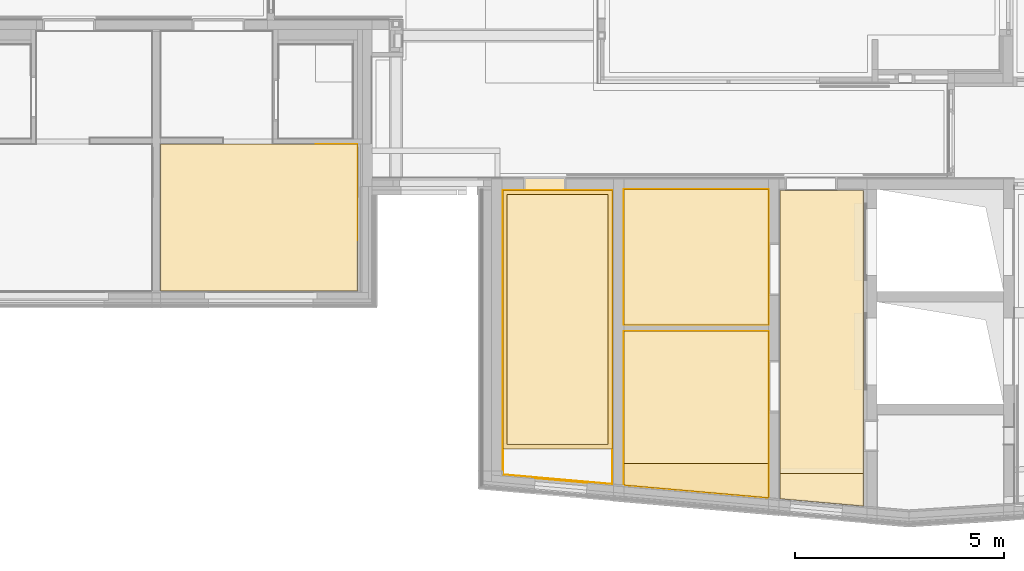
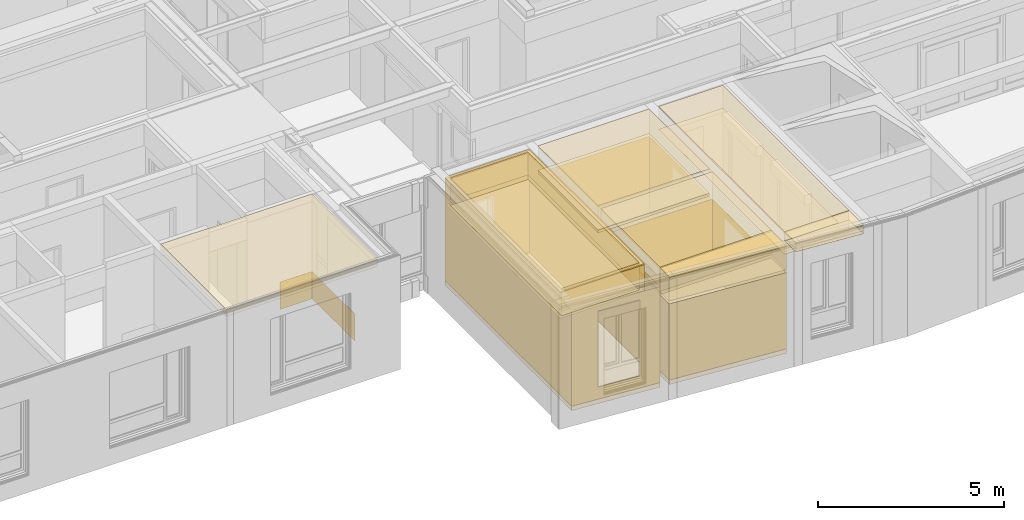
# One storey, part 164 of 222: 37 coverings.
"""IFC4 building model written with IfcOpenShell, lengths in metres."""

from ifc_helpers import new_model, entity, si_unit, converted_unit, derived_unit, frame, frame_2d, origin, origin_with_axes, place, context, subcontext, project, spatial, polyline, rectangle, outline, extrude, material, layer, layer_set, layer_usage, element, save


model = new_model("IFC4")

# Units and contexts
model_context = context("Model", 3, precision=1e-05, world=origin())
body_context = subcontext(model_context, "Body", "Model", "MODEL_VIEW")
ifc_project = project(units=[si_unit("LENGTHUNIT", "METRE"), si_unit("AREAUNIT", "SQUARE_METRE"), si_unit("VOLUMEUNIT", "CUBIC_METRE"), si_unit("MASSUNIT", "GRAM", prefix="KILO"), converted_unit("PLANEANGLEUNIT", "DEGREE", entity("IfcPlaneAngleMeasure", 0.0174532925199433), si_unit("PLANEANGLEUNIT", "RADIAN"), dimensions=[0, 0, 0, 0, 0, 0, 0]), derived_unit("THERMALTRANSMITTANCEUNIT", [(si_unit("POWERUNIT", "WATT"), 1), (si_unit("THERMODYNAMICTEMPERATUREUNIT", "KELVIN"), -1), (si_unit("LENGTHUNIT", "METRE"), -2)]), derived_unit("VOLUMETRICFLOWRATEUNIT", [(si_unit("LENGTHUNIT", "METRE"), 3), (converted_unit("TIMEUNIT", "hour", entity("IfcTimeMeasure", 3600.0), si_unit("TIMEUNIT", "SECOND"), dimensions=[0, 0, 1, 0, 0, 0, 0]), -1), (si_unit("LENGTHUNIT", "METRE"), -1)])], contexts=[model_context])

# Site, building, storey, space
site_placement = place(None, origin())
site = spatial("IfcSite", under=ifc_project, at=site_placement, Name="Psychiatrie Neubau Wunstorf", CompositionType="ELEMENT")
building_placement = place(site_placement, origin())
building = spatial("IfcBuilding", under=site, at=building_placement, Name="Neubau H2 Stationsgebäude", CompositionType="ELEMENT")
storey_placement = place(building_placement, frame((0.0, 0.0, 3.6)))
storey = spatial("IfcBuildingStorey", under=building, at=storey_placement, Name="H2 Ebene +1", CompositionType="ELEMENT", Elevation=3.6)
space_1_placement = place(storey_placement, frame((44.9410305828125, -7.31716821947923, 0.0)))
space_1 = spatial("IfcSpace", under=storey, at=space_1_placement, Name="WUN-H2-E01-F02", CompositionType="ELEMENT")

# Coverings
ifc_material_1 = material()
ifc_layer_1 = layer(ifc_material_1, 0.036)
ifc_layer_set_1 = layer_set([ifc_layer_1])
ifc_layer_usage_1 = layer_usage(ifc_layer_set_1, "AXIS3", "POSITIVE", 0.0)
covering_1_placement = place(space_1_placement, frame((0.0, 0.777576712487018, 3.55)))
element("IfcCovering", 1, at=covering_1_placement, inside=space_1, material=ifc_layer_usage_1, Name="Gipsfaserplatten 2-lagig (BSK)", PredefinedType="CEILING", context=body_context, shape_type="SweptSolid", body=[
    extrude(rectangle(XDim=6.78959150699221, YDim=1.99897429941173, at=frame_2d((-0.999487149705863, 3.3947957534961), x_axis=(0.0, 1.0))), frame((1.99897429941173, 6.78959150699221, 0.0), z_axis=(0.0, 0.0, -1.0), x_axis=(1.0, 0.0, 0.0)), (0.0, 0.0, 1.0), 0.036),
])
ifc_material_2 = material(Name="Installationshöhe")
ifc_layer_2 = layer(ifc_material_2, 0.614)
ifc_layer_set_2 = layer_set([ifc_layer_2])
ifc_layer_usage_2 = layer_usage(ifc_layer_set_2, "AXIS3", "POSITIVE", 0.0)
covering_2_placement = place(space_1_placement, frame((0.0, 0.777576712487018, 3.514)))
element("IfcCovering", 2, at=covering_2_placement, inside=space_1, material=ifc_layer_usage_2, Name="Gipsfaserplatten 2-lagig (BSK)", PredefinedType="CEILING", context=body_context, shape_type="SweptSolid", body=[
    extrude(rectangle(XDim=6.78959150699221, YDim=1.99897429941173, at=frame_2d((-0.999487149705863, 3.3947957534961), x_axis=(0.0, 1.0))), frame((1.99897429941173, 6.78959150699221, 0.0), z_axis=(0.0, 0.0, -1.0), x_axis=(1.0, 0.0, 0.0)), (0.0, 0.0, 1.0), 0.614),
])
ifc_material_3 = material(Name="A1")
ifc_layer_3 = layer(ifc_material_3, 0.1)
ifc_layer_set_3 = layer_set([ifc_layer_3])
ifc_layer_usage_3 = layer_usage(ifc_layer_set_3, "AXIS3", "POSITIVE", 0.0)
covering_3_placement = place(space_1_placement, frame((0.0, 0.777576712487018, 2.9)))
element("IfcCovering", 3, at=covering_3_placement, inside=space_1, material=ifc_layer_usage_3, Name="Gipskarton, imprägniert", PredefinedType="CEILING", context=body_context, shape_type="SweptSolid", body=[
    extrude(rectangle(XDim=6.78959150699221, YDim=1.99897429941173, at=frame_2d((-0.999487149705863, 3.3947957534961), x_axis=(0.0, 1.0))), frame((1.99897429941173, 6.78959150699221, 0.0), z_axis=(0.0, 0.0, -1.0), x_axis=(1.0, 0.0, 0.0)), (0.0, 0.0, 1.0), 0.1),
])
ifc_material_4 = material(Name="D1")
ifc_layer_4 = layer(ifc_material_4, 0.001)
ifc_layer_set_4 = layer_set([ifc_layer_4])
ifc_layer_usage_4 = layer_usage(ifc_layer_set_4, "AXIS3", "POSITIVE", 0.0)
covering_4_placement = place(space_1_placement, frame((0.0, 0.777576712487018, 2.8)))
element("IfcCovering", 4, at=covering_4_placement, inside=space_1, material=ifc_layer_usage_4, Name="Gipsfaserplatten 2-lagig (BSK)", PredefinedType="CEILING", context=body_context, shape_type="SweptSolid", body=[
    extrude(rectangle(XDim=6.78959150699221, YDim=1.99897429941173, at=frame_2d((-0.999487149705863, 3.3947957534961), x_axis=(0.0, 1.0))), frame((1.99897429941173, 6.78959150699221, 0.0), z_axis=(0.0, 0.0, -1.0), x_axis=(1.0, 0.0, 0.0)), (0.0, 0.0, 1.0), 0.001),
])
ifc_material_5 = material()
ifc_layer_5 = layer(ifc_material_5, 0.036)
ifc_layer_set_5 = layer_set([ifc_layer_5])
ifc_layer_usage_5 = layer_usage(ifc_layer_set_5, "AXIS3", "POSITIVE", 0.0)
covering_5_placement = place(space_1_placement, frame((0.0, 0.0, 3.55)))
element("IfcCovering", 5, at=covering_5_placement, inside=space_1, material=ifc_layer_usage_5, Name="Gipsfaserplatten 2-lagig (BSK)", PredefinedType="CEILING", context=body_context, shape_type="SweptSolid", body=[
    extrude(outline(polyline([(0.0, 0.602193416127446), (0.0, 0.0), (1.99897429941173, 0.0), (1.99897429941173, 0.777576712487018), (0.0, 0.602193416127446)])), frame((0.0, 0.777576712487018, 0.0), z_axis=(0.0, 0.0, -1.0), x_axis=(1.0, 0.0, 0.0)), (0.0, 0.0, 1.0), 0.036),
])
ifc_material_6 = material(Name="Installationshöhe")
ifc_layer_6 = layer(ifc_material_6, 0.164)
ifc_layer_set_6 = layer_set([ifc_layer_6])
ifc_layer_usage_6 = layer_usage(ifc_layer_set_6, "AXIS3", "POSITIVE", 0.0)
covering_6_placement = place(space_1_placement, frame((0.0, 0.0, 3.514)))
element("IfcCovering", 6, at=covering_6_placement, inside=space_1, material=ifc_layer_usage_6, Name="Gipsfaserplatten 2-lagig (BSK)", PredefinedType="CEILING", context=body_context, shape_type="SweptSolid", body=[
    extrude(outline(polyline([(0.0, 0.602193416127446), (0.0, 0.0), (1.99897429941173, 0.0), (1.99897429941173, 0.777576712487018), (0.0, 0.602193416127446)])), frame((0.0, 0.777576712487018, 0.0), z_axis=(0.0, 0.0, -1.0), x_axis=(1.0, 0.0, 0.0)), (0.0, 0.0, 1.0), 0.164),
])
ifc_material_7 = material(Name="A1")
ifc_layer_7 = layer(ifc_material_7, 0.1)
ifc_layer_set_7 = layer_set([ifc_layer_7])
ifc_layer_usage_7 = layer_usage(ifc_layer_set_7, "AXIS3", "POSITIVE", 0.0)
covering_7_placement = place(space_1_placement, frame((0.0, 0.0, 3.35)))
element("IfcCovering", 7, at=covering_7_placement, inside=space_1, material=ifc_layer_usage_7, Name="Gipsfaserplatten 2-lagig (BSK)", PredefinedType="CEILING", context=body_context, shape_type="SweptSolid", body=[
    extrude(outline(polyline([(0.0, 0.602193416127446), (0.0, 0.0), (1.99897429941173, 0.0), (1.99897429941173, 0.777576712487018), (0.0, 0.602193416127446)])), frame((0.0, 0.777576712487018, 0.0), z_axis=(0.0, 0.0, -1.0), x_axis=(1.0, 0.0, 0.0)), (0.0, 0.0, 1.0), 0.1),
])
ifc_material_8 = material(Name="D1")
ifc_layer_8 = layer(ifc_material_8, 0.001)
ifc_layer_set_8 = layer_set([ifc_layer_8])
ifc_layer_usage_8 = layer_usage(ifc_layer_set_8, "AXIS3", "POSITIVE", 0.0)
covering_8_placement = place(space_1_placement, frame((0.0, 0.0, 3.25)))
element("IfcCovering", 8, at=covering_8_placement, inside=space_1, material=ifc_layer_usage_8, Name="Gipsfaserplatten 2-lagig (BSK)", PredefinedType="CEILING", context=body_context, shape_type="SweptSolid", body=[
    extrude(outline(polyline([(0.0, 0.602193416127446), (0.0, 0.0), (1.99897429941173, 0.0), (1.99897429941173, 0.777576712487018), (0.0, 0.602193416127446)])), frame((0.0, 0.777576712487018, 0.0), z_axis=(0.0, 0.0, -1.0), x_axis=(1.0, 0.0, 0.0)), (0.0, 0.0, 1.0), 0.001),
])

# Space
space_2_placement = place(storey_placement, frame((30.1, -2.16399999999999, 0.0)))
space_2 = spatial("IfcSpace", under=storey, at=space_2_placement, Name="WUN-H2-E01-019", CompositionType="ELEMENT")

# Coverings
ifc_material_9 = material(Name="84")
ifc_layer_9 = layer(ifc_material_9, 0.001)
ifc_layer_set_9 = layer_set([ifc_layer_9])
ifc_layer_usage_9 = layer_usage(ifc_layer_set_9, "AXIS3", "POSITIVE", 0.0)
covering_9_placement = place(space_2_placement, frame((3.71400000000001, 1.22274963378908, 0.1)))
element("IfcCovering", 9, at=covering_9_placement, inside=space_2, material=ifc_layer_usage_9, Name="Acrovyn", PredefinedType="CLADDING", context=body_context, shape_type="SweptSolid", body=[
    extrude(rectangle(XDim=0.9, YDim=1.0, at=frame_2d((-0.5, -0.45), x_axis=(0.0, -1.0))), frame((0.0, 2.3, 0.0), z_axis=(4.54747350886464e-16, -1.0, 0.0), x_axis=(-1.0, -4.54747350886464e-16, 0.0)), (0.0, 0.0, 1.0), 0.001),
    extrude(rectangle(XDim=0.9, YDim=2.3, at=frame_2d((-1.15, -0.45), x_axis=(0.0, -1.0))), frame((1.0, 2.3, 0.0), z_axis=(-1.0, 0.0, 0.0), x_axis=(0.0, 1.0, 0.0)), (0.0, 0.0, 1.0), 0.001),
])
ifc_material_10 = material()
ifc_layer_10 = layer(ifc_material_10, 0.036)
ifc_layer_set_10 = layer_set([ifc_layer_10])
ifc_layer_usage_10 = layer_usage(ifc_layer_set_10, "AXIS3", "POSITIVE", 0.0)
covering_10_placement = place(space_2_placement, frame((0.0, 0.0, 3.55)))
element("IfcCovering", 10, at=covering_10_placement, inside=space_2, material=ifc_layer_usage_10, Name="Gipsfaserplatten 2-lagig (BSK)", PredefinedType="CEILING", context=body_context, shape_type="SweptSolid", body=[
    extrude(outline(polyline([(4.71750000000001, 0.822747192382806), (4.71400000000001, 0.822747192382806), (4.71400000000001, 3.52274963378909), (0.0, 3.52274963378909), (0.0, 0.0), (4.71400000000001, 0.0), (4.71750000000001, 0.822747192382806)])), frame((0.0, 3.52274963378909, 0.0), z_axis=(0.0, 0.0, -1.0), x_axis=(1.0, 0.0, 0.0)), (0.0, 0.0, 1.0), 0.036),
])
ifc_material_11 = material(Name="Installationshöhe")
ifc_layer_11 = layer(ifc_material_11, 0.114)
ifc_layer_set_11 = layer_set([ifc_layer_11])
ifc_layer_usage_11 = layer_usage(ifc_layer_set_11, "AXIS3", "POSITIVE", 0.0)
covering_11_placement = place(space_2_placement, frame((0.0, 0.0, 3.514)))
element("IfcCovering", 11, at=covering_11_placement, inside=space_2, material=ifc_layer_usage_11, Name="Gipsfaserplatten 2-lagig (BSK)", PredefinedType="CEILING", context=body_context, shape_type="SweptSolid", body=[
    extrude(outline(polyline([(4.71750000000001, 0.822747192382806), (4.71400000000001, 0.822747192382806), (4.71400000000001, 3.52274963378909), (0.0, 3.52274963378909), (0.0, 0.0), (4.71400000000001, 0.0), (4.71750000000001, 0.822747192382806)])), frame((0.0, 3.52274963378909, 0.0), z_axis=(0.0, 0.0, -1.0), x_axis=(1.0, 0.0, 0.0)), (0.0, 0.0, 1.0), 0.114),
])
ifc_material_12 = material(Name="A1")
ifc_layer_12 = layer(ifc_material_12, 0.1)
ifc_layer_set_12 = layer_set([ifc_layer_12])
ifc_layer_usage_12 = layer_usage(ifc_layer_set_12, "AXIS3", "POSITIVE", 0.0)
covering_12_placement = place(space_2_placement, frame((0.0, 0.0, 3.4)))
element("IfcCovering", 12, at=covering_12_placement, inside=space_2, material=ifc_layer_usage_12, Name="Gipsfaserplatten 2-lagig (BSK)", PredefinedType="CEILING", context=body_context, shape_type="SweptSolid", body=[
    extrude(outline(polyline([(4.71750000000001, 0.822747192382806), (4.71400000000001, 0.822747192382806), (4.71400000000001, 3.52274963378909), (0.0, 3.52274963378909), (0.0, 0.0), (4.71400000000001, 0.0), (4.71750000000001, 0.822747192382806)])), frame((0.0, 3.52274963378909, 0.0), z_axis=(0.0, 0.0, -1.0), x_axis=(1.0, 0.0, 0.0)), (0.0, 0.0, 1.0), 0.1),
])
ifc_material_13 = material(Name="D1")
ifc_layer_13 = layer(ifc_material_13, 0.001)
ifc_layer_set_13 = layer_set([ifc_layer_13])
ifc_layer_usage_13 = layer_usage(ifc_layer_set_13, "AXIS3", "POSITIVE", 0.0)
covering_13_placement = place(space_2_placement, frame((0.0, 0.0, 3.3)))
element("IfcCovering", 13, at=covering_13_placement, inside=space_2, material=ifc_layer_usage_13, Name="Gipsfaserplatten 2-lagig (BSK)", PredefinedType="CEILING", context=body_context, shape_type="SweptSolid", body=[
    extrude(outline(polyline([(4.71750000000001, 0.822747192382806), (4.71400000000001, 0.822747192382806), (4.71400000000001, 3.52274963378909), (0.0, 3.52274963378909), (0.0, 0.0), (4.71400000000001, 0.0), (4.71750000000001, 0.822747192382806)])), frame((0.0, 3.52274963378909, 0.0), z_axis=(0.0, 0.0, -1.0), x_axis=(1.0, 0.0, 0.0)), (0.0, 0.0, 1.0), 0.001),
])

# Space
space_3_placement = place(storey_placement, frame((41.2, -7.11765762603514, 0.0)))
space_3 = spatial("IfcSpace", under=storey, at=space_3_placement, Name="WUN-H2-E01-001", CompositionType="ELEMENT")

# Coverings
ifc_material_14 = material()
ifc_layer_14 = layer(ifc_material_14, 0.036)
ifc_layer_set_14 = layer_set([ifc_layer_14])
ifc_layer_usage_14 = layer_usage(ifc_layer_set_14, "AXIS3", "POSITIVE", 0.0)
covering_14_placement = place(space_3_placement, frame((0.0, 0.820157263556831, 3.55)))
element("IfcCovering", 14, at=covering_14_placement, inside=space_3, material=ifc_layer_usage_14, Name="Gipsfaserplatten 2-lagig (BSK)", PredefinedType="CEILING", context=body_context, shape_type="SweptSolid", body=[
    extrude(rectangle(XDim=3.46603058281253, YDim=3.175, at=frame_2d((-1.73301529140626, -1.5875), x_axis=(-1.0, 0.0))), frame((3.46603058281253, 0.0, 0.0), z_axis=(0.0, 0.0, -1.0), x_axis=(1.0, 0.0, 0.0)), (0.0, 0.0, 1.0), 0.036),
])
ifc_material_15 = material(Name="Installationshöhe")
ifc_layer_15 = layer(ifc_material_15, 0.764)
ifc_layer_set_15 = layer_set([ifc_layer_15])
ifc_layer_usage_15 = layer_usage(ifc_layer_set_15, "AXIS3", "POSITIVE", 0.0)
covering_15_placement = place(space_3_placement, frame((0.0, 0.820157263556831, 3.514)))
element("IfcCovering", 15, at=covering_15_placement, inside=space_3, material=ifc_layer_usage_15, Name="Gipsfaserplatten 2-lagig (BSK)", PredefinedType="CEILING", context=body_context, shape_type="SweptSolid", body=[
    extrude(rectangle(XDim=3.46603058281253, YDim=3.175, at=frame_2d((-1.73301529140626, -1.5875), x_axis=(-1.0, 0.0))), frame((3.46603058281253, 0.0, 0.0), z_axis=(0.0, 0.0, -1.0), x_axis=(1.0, 0.0, 0.0)), (0.0, 0.0, 1.0), 0.764),
])
ifc_material_16 = material(Name="E3")
ifc_layer_16 = layer(ifc_material_16, 0.1)
ifc_layer_set_16 = layer_set([ifc_layer_16])
ifc_layer_usage_16 = layer_usage(ifc_layer_set_16, "AXIS3", "POSITIVE", 0.0)
covering_16_placement = place(space_3_placement, frame((0.0, 0.820157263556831, 2.75)))
element("IfcCovering", 16, at=covering_16_placement, inside=space_3, material=ifc_layer_usage_16, Name="Rasterdecke", PredefinedType="CEILING", context=body_context, shape_type="SweptSolid", body=[
    extrude(rectangle(XDim=3.46603058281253, YDim=3.175, at=frame_2d((-1.73301529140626, -1.5875), x_axis=(-1.0, 0.0))), frame((3.46603058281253, 0.0, 0.0), z_axis=(0.0, 0.0, -1.0), x_axis=(1.0, 0.0, 0.0)), (0.0, 0.0, 1.0), 0.1),
])
ifc_material_17 = material(Name="Ku2")
ifc_layer_17 = layer(ifc_material_17, 0.15)
ifc_layer_set_17 = layer_set([ifc_layer_17])
ifc_layer_usage_17 = layer_usage(ifc_layer_set_17, "AXIS3", "POSITIVE", 0.0)
covering_17_placement = place(space_3_placement, origin())
element("IfcCovering", 17, at=covering_17_placement, inside=space_3, material=ifc_layer_usage_17, Name="PVC Bahnenware Uni", PredefinedType="FLOORING", context=body_context, shape_type="SweptSolid", body=[
    extrude(outline(polyline([(3.46603058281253, 3.99515726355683), (0.0, 3.99515726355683), (0.0, 0.30409789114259), (3.46603058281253, 0.0), (3.46603058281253, 3.99515726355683)])), origin_with_axes(), (0.0, 0.0, 1.0), 0.15),
])
ifc_material_18 = material()
ifc_layer_18 = layer(ifc_material_18, 0.036)
ifc_layer_set_18 = layer_set([ifc_layer_18])
ifc_layer_usage_18 = layer_usage(ifc_layer_set_18, "AXIS3", "POSITIVE", 0.0)
covering_18_placement = place(space_3_placement, frame((0.0, 0.0, 3.55)))
element("IfcCovering", 18, at=covering_18_placement, inside=space_3, material=ifc_layer_usage_18, Name="Gipsfaserplatten 2-lagig (BSK)", PredefinedType="CEILING", context=body_context, shape_type="SweptSolid", body=[
    extrude(outline(polyline([(3.46603058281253, 0.0), (3.46603058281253, 0.820157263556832), (0.0, 0.516059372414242), (0.0, 0.0), (3.46603058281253, 0.0)])), frame((0.0, 0.820157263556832, 0.0), z_axis=(0.0, 0.0, -1.0), x_axis=(1.0, 0.0, 0.0)), (0.0, 0.0, 1.0), 0.036),
])
ifc_material_19 = material(Name="Installationshöhe")
ifc_layer_19 = layer(ifc_material_19, 0.764)
ifc_layer_set_19 = layer_set([ifc_layer_19])
ifc_layer_usage_19 = layer_usage(ifc_layer_set_19, "AXIS3", "POSITIVE", 0.0)
covering_19_placement = place(space_3_placement, frame((0.0, 0.0, 3.514)))
element("IfcCovering", 19, at=covering_19_placement, inside=space_3, material=ifc_layer_usage_19, Name="Gipsfaserplatten 2-lagig (BSK)", PredefinedType="CEILING", context=body_context, shape_type="SweptSolid", body=[
    extrude(outline(polyline([(3.46603058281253, 0.0), (3.46603058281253, 0.820157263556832), (0.0, 0.516059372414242), (0.0, 0.0), (3.46603058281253, 0.0)])), frame((0.0, 0.820157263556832, 0.0), z_axis=(0.0, 0.0, -1.0), x_axis=(1.0, 0.0, 0.0)), (0.0, 0.0, 1.0), 0.764),
])
ifc_material_20 = material(Name="A1")
ifc_layer_20 = layer(ifc_material_20, 0.1)
ifc_layer_set_20 = layer_set([ifc_layer_20])
ifc_layer_usage_20 = layer_usage(ifc_layer_set_20, "AXIS3", "POSITIVE", 0.0)
covering_20_placement = place(space_3_placement, frame((0.0, 0.0, 2.75)))
element("IfcCovering", 20, at=covering_20_placement, inside=space_3, material=ifc_layer_usage_20, Name="Gipsfaserplatten 2-lagig (BSK)", PredefinedType="CEILING", context=body_context, shape_type="SweptSolid", body=[
    extrude(outline(polyline([(3.46603058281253, 0.0), (3.46603058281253, 0.820157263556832), (0.0, 0.516059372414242), (0.0, 0.0), (3.46603058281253, 0.0)])), frame((0.0, 0.820157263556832, 0.0), z_axis=(0.0, 0.0, -1.0), x_axis=(1.0, 0.0, 0.0)), (0.0, 0.0, 1.0), 0.1),
])
ifc_material_21 = material(Name="D1")
ifc_layer_21 = layer(ifc_material_21, 0.001)
ifc_layer_set_21 = layer_set([ifc_layer_21])
ifc_layer_usage_21 = layer_usage(ifc_layer_set_21, "AXIS3", "POSITIVE", 0.0)
covering_21_placement = place(space_3_placement, frame((0.0, 0.0, 2.65)))
element("IfcCovering", 21, at=covering_21_placement, inside=space_3, material=ifc_layer_usage_21, Name="Gipsfaserplatten 2-lagig (BSK)", PredefinedType="CEILING", context=body_context, shape_type="SweptSolid", body=[
    extrude(outline(polyline([(3.46603058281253, 0.0), (3.46603058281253, 0.820157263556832), (0.0, 0.516059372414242), (0.0, 0.0), (3.46603058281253, 0.0)])), frame((0.0, 0.820157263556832, 0.0), z_axis=(0.0, 0.0, -1.0), x_axis=(1.0, 0.0, 0.0)), (0.0, 0.0, 1.0), 0.001),
])
ifc_material_22 = material(Name="50")
ifc_layer_22 = layer(ifc_material_22, 0.001)
ifc_layer_set_22 = layer_set([ifc_layer_22])
ifc_layer_usage_22 = layer_usage(ifc_layer_set_22, "AXIS3", "POSITIVE", 0.0)
covering_22_placement = place(space_3_placement, frame((0.0, 0.0, 0.15)))
element("IfcCovering", 22, at=covering_22_placement, inside=space_3, material=ifc_layer_usage_22, PredefinedType="CLADDING", context=body_context, shape_type="SweptSolid", body=[
    extrude(rectangle(XDim=3.47934527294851, YDim=2.5, at=frame_2d((1.73967263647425, -1.25), x_axis=(1.0, 0.0))), frame((0.0, 0.30409789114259, 0.0), z_axis=(0.087400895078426, 0.996173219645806, 0.0), x_axis=(0.996173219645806, -0.087400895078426, 0.0)), (0.0, 0.0, 1.0), 0.001),
    extrude(rectangle(XDim=3.99515726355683, YDim=2.5, at=frame_2d((1.99757863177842, -1.25), x_axis=(1.0, 0.0))), frame((3.46603058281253, 0.0, 0.0), z_axis=(-1.0, 0.0, 0.0), x_axis=(0.0, 1.0, 0.0)), (0.0, 0.0, 1.0), 0.001),
    extrude(rectangle(XDim=3.46603058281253, YDim=2.5, at=frame_2d((1.73301529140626, -1.25), x_axis=(1.0, 0.0))), frame((3.46603058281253, 3.99515726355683, 0.0), z_axis=(-5.24804775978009e-16, -1.0, 0.0), x_axis=(-1.0, 5.24804775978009e-16, 0.0)), (0.0, 0.0, 1.0), 0.001),
    extrude(rectangle(XDim=3.69105937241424, YDim=2.5, at=frame_2d((1.84552968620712, -1.25), x_axis=(1.0, 0.0))), frame((0.0, 3.99515726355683, 0.0), z_axis=(1.0, 0.0, 0.0), x_axis=(0.0, -1.0, 0.0)), (0.0, 0.0, 1.0), 0.001),
])

# Space
space_4_placement = place(storey_placement, frame((41.1999742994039, -2.9725003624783, 0.0)))
space_4 = spatial("IfcSpace", under=storey, at=space_4_placement, Name="WUN-H2-E01-002", CompositionType="ELEMENT")

# Coverings
ifc_material_23 = material(Name="Ku2")
ifc_layer_23 = layer(ifc_material_23, 0.15)
ifc_layer_set_23 = layer_set([ifc_layer_23])
ifc_layer_usage_23 = layer_usage(ifc_layer_set_23, "AXIS3", "POSITIVE", 0.0)
covering_23_placement = place(space_4_placement, origin())
element("IfcCovering", 23, at=covering_23_placement, inside=space_4, material=ifc_layer_usage_23, Name="PVC Bahnenware Uni", PredefinedType="FLOORING", context=body_context, shape_type="SweptSolid", body=[
    extrude(rectangle(XDim=3.24750041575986, YDim=3.46603058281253, at=frame_2d((1.73302814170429, -1.62375020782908), x_axis=(7.91396235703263e-06, -0.999999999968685))), frame((0.0, 3.24750041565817, 0.0), z_axis=(0.0, 0.0, 1.0), x_axis=(1.0, 0.0, 0.0)), (0.0, 0.0, 1.0), 0.15),
])
ifc_material_24 = material()
ifc_layer_24 = layer(ifc_material_24, 0.036)
ifc_layer_set_24 = layer_set([ifc_layer_24])
ifc_layer_usage_24 = layer_usage(ifc_layer_set_24, "AXIS3", "POSITIVE", 0.0)
covering_24_placement = place(space_4_placement, frame((0.0, 0.0, 3.55)))
element("IfcCovering", 24, at=covering_24_placement, inside=space_4, material=ifc_layer_usage_24, Name="Gipsfaserplatten 2-lagig (BSK)", PredefinedType="CEILING", context=body_context, shape_type="SweptSolid", body=[
    extrude(rectangle(XDim=3.24750041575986, YDim=3.46603058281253, at=frame_2d((1.73300244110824, -1.62375018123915), x_axis=(-7.91396235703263e-06, -0.999999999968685))), frame((2.57005960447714e-05, 0.0, 0.0), z_axis=(0.0, 0.0, -1.0), x_axis=(1.0, 0.0, 0.0)), (0.0, 0.0, 1.0), 0.036),
])
ifc_material_25 = material(Name="Installationshöhe")
ifc_layer_25 = layer(ifc_material_25, 0.764)
ifc_layer_set_25 = layer_set([ifc_layer_25])
ifc_layer_usage_25 = layer_usage(ifc_layer_set_25, "AXIS3", "POSITIVE", 0.0)
covering_25_placement = place(space_4_placement, frame((0.0, 0.0, 3.514)))
element("IfcCovering", 25, at=covering_25_placement, inside=space_4, material=ifc_layer_usage_25, Name="Gipsfaserplatten 2-lagig (BSK)", PredefinedType="CEILING", context=body_context, shape_type="SweptSolid", body=[
    extrude(rectangle(XDim=3.24750041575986, YDim=3.46603058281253, at=frame_2d((1.73300244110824, -1.62375018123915), x_axis=(-7.91396235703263e-06, -0.999999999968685))), frame((2.57005960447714e-05, 0.0, 0.0), z_axis=(0.0, 0.0, -1.0), x_axis=(1.0, 0.0, 0.0)), (0.0, 0.0, 1.0), 0.764),
])
ifc_material_26 = material(Name="E3")
ifc_layer_26 = layer(ifc_material_26, 0.1)
ifc_layer_set_26 = layer_set([ifc_layer_26])
ifc_layer_usage_26 = layer_usage(ifc_layer_set_26, "AXIS3", "POSITIVE", 0.0)
covering_26_placement = place(space_4_placement, frame((0.0, 0.0, 2.75)))
element("IfcCovering", 26, at=covering_26_placement, inside=space_4, material=ifc_layer_usage_26, Name="Rasterdecke", PredefinedType="CEILING", context=body_context, shape_type="SweptSolid", body=[
    extrude(rectangle(XDim=3.24750041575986, YDim=3.46603058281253, at=frame_2d((1.73300244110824, -1.62375018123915), x_axis=(-7.91396235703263e-06, -0.999999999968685))), frame((2.57005960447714e-05, 0.0, 0.0), z_axis=(0.0, 0.0, -1.0), x_axis=(1.0, 0.0, 0.0)), (0.0, 0.0, 1.0), 0.1),
])
ifc_material_27 = material(Name="50")
ifc_layer_27 = layer(ifc_material_27, 0.001)
ifc_layer_set_27 = layer_set([ifc_layer_27])
ifc_layer_usage_27 = layer_usage(ifc_layer_set_27, "AXIS3", "POSITIVE", 0.0)
covering_27_placement = place(space_4_placement, frame((0.0, 0.0, 0.15)))
element("IfcCovering", 27, at=covering_27_placement, inside=space_4, material=ifc_layer_usage_27, PredefinedType="CLADDING", context=body_context, shape_type="SweptSolid", body=[
    extrude(rectangle(XDim=3.24750036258, YDim=2.5, at=frame_2d((1.62375018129, -1.25), x_axis=(1.0, 0.0))), frame((3.46605628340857, 0.0, 0.0), z_axis=(-0.999999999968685, -7.91396248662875e-06, 0.0), x_axis=(-7.91396248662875e-06, 0.999999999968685, 0.0)), (0.0, 0.0, 1.0), 0.001),
    extrude(rectangle(XDim=3.46603058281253, YDim=2.5, at=frame_2d((1.73301529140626, -1.25), x_axis=(1.0, 0.0))), frame((3.46603058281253, 3.2475003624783, 0.0), z_axis=(-1.53431612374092e-08, -1.0, 0.0), x_axis=(-1.0, 1.53431612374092e-08, 0.0)), (0.0, 0.0, 1.0), 0.001),
    extrude(rectangle(XDim=3.24750041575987, YDim=2.5, at=frame_2d((1.62375020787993, -1.25), x_axis=(1.0, 0.0))), frame((0.0, 3.24750041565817, 0.0), z_axis=(0.999999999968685, 7.91396235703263e-06, 0.0), x_axis=(7.91396235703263e-06, -0.999999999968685, 0.0)), (0.0, 0.0, 1.0), 0.001),
    extrude(rectangle(XDim=3.46603058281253, YDim=2.5, at=frame_2d((1.73301529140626, -1.25), x_axis=(1.0, 0.0))), frame((2.57005960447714e-05, 0.0, 0.0), z_axis=(0.0, 1.0, 0.0), x_axis=(1.0, 0.0, 0.0)), (0.0, 0.0, 1.0), 0.001),
])

# Space
space_5_placement = place(storey_placement, frame((38.304, -6.7895198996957, 0.0)))
space_5 = spatial("IfcSpace", under=storey, at=space_5_placement, Name="WUN-H2-E01-073", CompositionType="ELEMENT")

# Coverings
ifc_material_28 = material()
ifc_layer_28 = layer(ifc_material_28, 0.036)
ifc_layer_set_28 = layer_set([ifc_layer_28])
ifc_layer_usage_28 = layer_usage(ifc_layer_set_28, "AXIS3", "POSITIVE", 0.0)
covering_28_placement = place(space_5_placement, frame((0.1, 0.946978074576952, 3.55)))
element("IfcCovering", 28, at=covering_28_placement, inside=space_5, material=ifc_layer_usage_28, Name="Gipsfaserplatten 2-lagig (BSK)", PredefinedType="CEILING", context=body_context, shape_type="SweptSolid", body=[
    extrude(rectangle(XDim=5.99354182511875, YDim=2.42199999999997, at=frame_2d((1.21099999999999, -2.99677091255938), x_axis=(0.0, -1.0))), frame((0.0, 0.0, 0.0), z_axis=(0.0, 0.0, -1.0), x_axis=(1.0, 0.0, 0.0)), (0.0, 0.0, 1.0), 0.036),
])
ifc_material_29 = material(Name="Installationshöhe")
ifc_layer_29 = layer(ifc_material_29, 0.714)
ifc_layer_set_29 = layer_set([ifc_layer_29])
ifc_layer_usage_29 = layer_usage(ifc_layer_set_29, "AXIS3", "POSITIVE", 0.0)
covering_29_placement = place(space_5_placement, frame((0.1, 0.946978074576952, 3.514)))
element("IfcCovering", 29, at=covering_29_placement, inside=space_5, material=ifc_layer_usage_29, Name="Gipsfaserplatten 2-lagig (BSK)", PredefinedType="CEILING", context=body_context, shape_type="SweptSolid", body=[
    extrude(rectangle(XDim=5.99354182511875, YDim=2.42199999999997, at=frame_2d((1.21099999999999, -2.99677091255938), x_axis=(0.0, -1.0))), frame((0.0, 0.0, 0.0), z_axis=(0.0, 0.0, -1.0), x_axis=(1.0, 0.0, 0.0)), (0.0, 0.0, 1.0), 0.714),
])
ifc_material_30 = material(Name="Aa")
ifc_layer_30 = layer(ifc_material_30, 0.15)
ifc_layer_set_30 = layer_set([ifc_layer_30])
ifc_layer_usage_30 = layer_usage(ifc_layer_set_30, "AXIS3", "POSITIVE", 0.0)
covering_30_placement = place(space_5_placement, frame((0.1, 0.946978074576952, 2.8)))
element("IfcCovering", 30, at=covering_30_placement, inside=space_5, material=ifc_layer_usage_30, Name="Gipsfaserplatten 2-lagig (BSK)", PredefinedType="CEILING", context=body_context, shape_type="SweptSolid", body=[
    extrude(rectangle(XDim=5.99354182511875, YDim=2.42199999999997, at=frame_2d((1.21099999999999, -2.99677091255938), x_axis=(0.0, -1.0))), frame((0.0, 0.0, 0.0), z_axis=(0.0, 0.0, -1.0), x_axis=(1.0, 0.0, 0.0)), (0.0, 0.0, 1.0), 0.15),
])
ifc_material_31 = material(Name="D1")
ifc_layer_31 = layer(ifc_material_31, 0.001)
ifc_layer_set_31 = layer_set([ifc_layer_31])
ifc_layer_usage_31 = layer_usage(ifc_layer_set_31, "AXIS3", "POSITIVE", 0.0)
covering_31_placement = place(space_5_placement, frame((0.1, 0.946978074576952, 2.65)))
element("IfcCovering", 31, at=covering_31_placement, inside=space_5, material=ifc_layer_usage_31, Name="Gipsfaserplatten 2-lagig (BSK)", PredefinedType="CEILING", context=body_context, shape_type="SweptSolid", body=[
    extrude(rectangle(XDim=5.99354182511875, YDim=2.42199999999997, at=frame_2d((1.21099999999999, -2.99677091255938), x_axis=(0.0, -1.0))), frame((0.0, 0.0, 0.0), z_axis=(0.0, 0.0, -1.0), x_axis=(1.0, 0.0, 0.0)), (0.0, 0.0, 1.0), 0.001),
])
ifc_material_32 = material()
ifc_layer_32 = layer(ifc_material_32, 0.036)
ifc_layer_set_32 = layer_set([ifc_layer_32])
ifc_layer_usage_32 = layer_usage(ifc_layer_set_32, "AXIS3", "POSITIVE", 0.0)
covering_32_placement = place(space_5_placement, frame((0.0, 0.846978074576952, 3.55)))
element("IfcCovering", 32, at=covering_32_placement, inside=space_5, material=ifc_layer_usage_32, Name="Gipsfaserplatten 2-lagig (BSK)", PredefinedType="CEILING", context=body_context, shape_type="SweptSolid", body=[
    extrude(outline(polyline([(2.62199999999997, 0.0), (2.62199999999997, 6.19354182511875), (0.0, 6.19354182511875), (0.0, 0.0), (2.62199999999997, 0.0)]), holes=[polyline([(2.52199999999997, 6.09354182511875), (2.52199999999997, 0.0999999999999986), (0.1, 0.0999999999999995), (0.1, 6.09354182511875), (2.52199999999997, 6.09354182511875)])]), frame((0.0, 6.19354182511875, 0.0), z_axis=(0.0, 0.0, -1.0), x_axis=(1.0, 0.0, 0.0)), (0.0, 0.0, 1.0), 0.036),
])
ifc_material_33 = material(Name="Installationshöhe")
ifc_layer_33 = layer(ifc_material_33, 0.714)
ifc_layer_set_33 = layer_set([ifc_layer_33])
ifc_layer_usage_33 = layer_usage(ifc_layer_set_33, "AXIS3", "POSITIVE", 0.0)
covering_33_placement = place(space_5_placement, frame((0.0, 0.846978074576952, 3.514)))
element("IfcCovering", 33, at=covering_33_placement, inside=space_5, material=ifc_layer_usage_33, Name="Gipsfaserplatten 2-lagig (BSK)", PredefinedType="CEILING", context=body_context, shape_type="SweptSolid", body=[
    extrude(outline(polyline([(2.62199999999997, 0.0), (2.62199999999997, 6.19354182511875), (0.0, 6.19354182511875), (0.0, 0.0), (2.62199999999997, 0.0)]), holes=[polyline([(2.52199999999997, 6.09354182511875), (2.52199999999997, 0.0999999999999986), (0.1, 0.0999999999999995), (0.1, 6.09354182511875), (2.52199999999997, 6.09354182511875)])]), frame((0.0, 6.19354182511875, 0.0), z_axis=(0.0, 0.0, -1.0), x_axis=(1.0, 0.0, 0.0)), (0.0, 0.0, 1.0), 0.714),
])
ifc_material_34 = material(Name="A1")
ifc_layer_34 = layer(ifc_material_34, 0.15)
ifc_layer_set_34 = layer_set([ifc_layer_34])
ifc_layer_usage_34 = layer_usage(ifc_layer_set_34, "AXIS3", "POSITIVE", 0.0)
covering_34_placement = place(space_5_placement, frame((0.0, 0.846978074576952, 2.8)))
element("IfcCovering", 34, at=covering_34_placement, inside=space_5, material=ifc_layer_usage_34, Name="Gipsfaserplatten 2-lagig (BSK)", PredefinedType="CEILING", context=body_context, shape_type="SweptSolid", body=[
    extrude(outline(polyline([(2.62199999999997, 0.0), (2.62199999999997, 6.19354182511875), (0.0, 6.19354182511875), (0.0, 0.0), (2.62199999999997, 0.0)]), holes=[polyline([(2.52199999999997, 6.09354182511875), (2.52199999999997, 0.0999999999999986), (0.1, 0.0999999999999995), (0.1, 6.09354182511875), (2.52199999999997, 6.09354182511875)])]), frame((0.0, 6.19354182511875, 0.0), z_axis=(0.0, 0.0, -1.0), x_axis=(1.0, 0.0, 0.0)), (0.0, 0.0, 1.0), 0.15),
])
ifc_material_35 = material(Name="D1")
ifc_layer_35 = layer(ifc_material_35, 0.001)
ifc_layer_set_35 = layer_set([ifc_layer_35])
ifc_layer_usage_35 = layer_usage(ifc_layer_set_35, "AXIS3", "POSITIVE", 0.0)
covering_35_placement = place(space_5_placement, frame((0.0, 0.846978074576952, 2.65)))
element("IfcCovering", 35, at=covering_35_placement, inside=space_5, material=ifc_layer_usage_35, Name="Gipsfaserplatten 2-lagig (BSK)", PredefinedType="CEILING", context=body_context, shape_type="SweptSolid", body=[
    extrude(outline(polyline([(2.62199999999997, 0.0), (2.62199999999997, 6.19354182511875), (0.0, 6.19354182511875), (0.0, 0.0), (2.62199999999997, 0.0)]), holes=[polyline([(2.52199999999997, 6.09354182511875), (2.52199999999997, 0.0999999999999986), (0.1, 0.0999999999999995), (0.1, 6.09354182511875), (2.52199999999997, 6.09354182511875)])]), frame((0.0, 6.19354182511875, 0.0), z_axis=(0.0, 0.0, -1.0), x_axis=(1.0, 0.0, 0.0)), (0.0, 0.0, 1.0), 0.001),
])
ifc_material_36 = material(Name="Ku1")
ifc_layer_36 = layer(ifc_material_36, 0.15)
ifc_layer_set_36 = layer_set([ifc_layer_36])
ifc_layer_usage_36 = layer_usage(ifc_layer_set_36, "AXIS3", "POSITIVE", 0.0)
covering_36_placement = place(space_5_placement, origin())
element("IfcCovering", 36, at=covering_36_placement, inside=space_5, material=ifc_layer_usage_36, Name="PVC Bahnenware Holzoptik", PredefinedType="FLOORING", context=body_context, shape_type="SweptSolid", body=[
    extrude(rectangle(XDim=0.298, YDim=1.01, at=frame_2d((0.505, -0.149), x_axis=(0.0, -1.0))), frame((0.496000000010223, 7.3385198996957, 0.0), z_axis=(0.0, 0.0, 1.0), x_axis=(1.0, 0.0, 0.0)), (0.0, 0.0, 1.0), 0.15),
    extrude(outline(polyline([(0.0, 0.230044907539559), (2.62199999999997, 0.0), (2.62199999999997, 7.0405198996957), (0.0, 7.0405198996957), (0.0, 0.230044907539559)])), origin_with_axes(), (0.0, 0.0, 1.0), 0.15),
])
ifc_material_37 = material(Name="49")
ifc_layer_37 = layer(ifc_material_37, 0.001)
ifc_layer_set_37 = layer_set([ifc_layer_37])
ifc_layer_usage_37 = layer_usage(ifc_layer_set_37, "AXIS3", "POSITIVE", 0.0)
covering_37_placement = place(space_5_placement, frame((0.0, 0.0, 0.15)))
element("IfcCovering", 37, at=covering_37_placement, inside=space_5, material=ifc_layer_usage_37, PredefinedType="CLADDING", context=body_context, shape_type="SweptSolid", body=[
    extrude(outline(polyline([(0.0, 3.15), (1.11599999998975, 3.15), (1.11599999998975, 0.89), (2.12599999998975, 0.89), (2.12599999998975, 3.15), (2.62199999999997, 3.15), (2.62199999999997, 0.0), (0.0, 0.0), (0.0, 3.15)])), frame((2.62199999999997, 7.0405198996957, 3.15), z_axis=(-3.15009505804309e-17, -1.0, 3.91051623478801e-17), x_axis=(-1.0, 3.15009505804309e-17, 0.0)), (0.0, 0.0, 1.0), 0.001),
    extrude(rectangle(XDim=6.81047499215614, YDim=3.15, at=frame_2d((3.40523749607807, -1.575), x_axis=(1.0, 0.0))), frame((0.0, 7.0405198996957, 0.0), z_axis=(1.0, 0.0, 0.0), x_axis=(0.0, -1.0, 0.0)), (0.0, 0.0, 1.0), 0.001),
    extrude(outline(polyline([(0.0, 3.15), (2.63207231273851, 3.15), (2.63207231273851, 0.0), (0.0, 0.0), (0.0, 3.15)]), holes=[polyline([(2.02889935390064, 2.75), (0.778899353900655, 2.75), (0.778899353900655, 0.25), (2.02889935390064, 0.25), (2.02889935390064, 2.75)])]), frame((0.0, 0.230044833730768, 3.15), z_axis=(0.0874007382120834, 0.996173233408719, 3.18672911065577e-19), x_axis=(0.996173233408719, -0.0874007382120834, 0.0)), (0.0, 0.0, 1.0), 0.001),
    extrude(rectangle(XDim=7.0405198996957, YDim=3.15, at=frame_2d((3.52025994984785, -1.575), x_axis=(1.0, 0.0))), frame((2.62199999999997, 0.0, 0.0), z_axis=(-1.0, 0.0, 0.0), x_axis=(0.0, 1.0, 0.0)), (0.0, 0.0, 1.0), 0.001),
    extrude(rectangle(XDim=0.0249998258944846, YDim=1.25000000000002, at=frame_2d((0.62151577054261, 0.067077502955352), x_axis=(-0.0874008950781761, 0.996173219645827))), frame((0.775918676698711, 0.161968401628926, 2.9), z_axis=(0.0, 0.0, -1.0), x_axis=(1.0, 0.0, 0.0)), (0.0, 0.0, 1.0), 0.001),
    extrude(rectangle(XDim=0.0249998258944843, YDim=2.5, at=frame_2d((0.0124999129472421, -1.25), x_axis=(1.0, 0.0))), frame((0.775918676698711, 0.161968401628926, 0.4), z_axis=(0.996173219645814, -0.0874008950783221, -1.46553409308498e-15), x_axis=(-0.0874008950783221, -0.996173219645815, 0.0)), (0.0, 0.0, 1.0), 0.001),
    extrude(rectangle(XDim=2.5, YDim=0.0249995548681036, at=frame_2d((-0.0124997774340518, -1.25), x_axis=(0.0, -1.0))), frame((2.02113520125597, 0.0527172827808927, 0.4), z_axis=(-0.996173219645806, 0.087400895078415, 0.0), x_axis=(0.087400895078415, 0.996173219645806, 0.0)), (0.0, 0.0, 1.0), 0.001),
])

save(model, "model.ifc")
